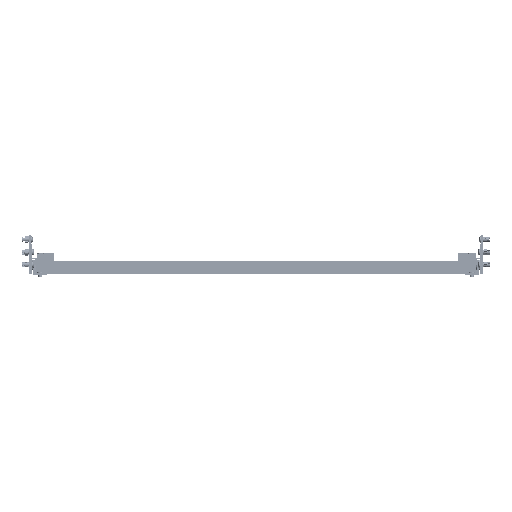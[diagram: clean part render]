
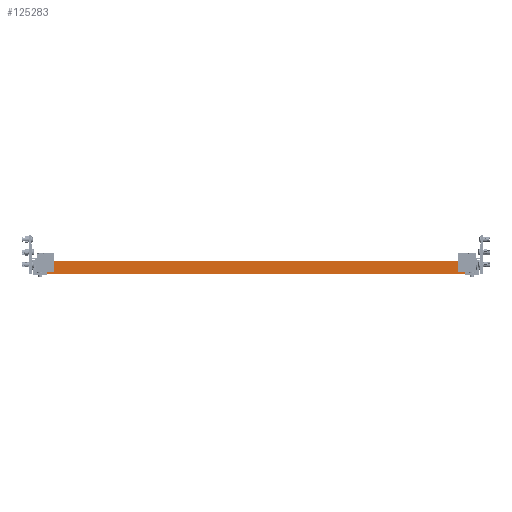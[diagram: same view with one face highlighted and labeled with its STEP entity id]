
A CAD part, front view. The second image highlights one B-rep face of the part: STEP entity #125283.
In plain terms, the highlighted planar face has unit normal (0, -1, 0) as drawn and (-1, 0, 0) by its records, which use the part's own axes.
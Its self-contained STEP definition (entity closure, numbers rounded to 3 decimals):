
#4048 = LINE ( 'NONE', #153170, #212896 ) ;
#41529 = CARTESIAN_POINT ( 'NONE',  ( -741.51, -414.5, 0. ) ) ;
#50234 = LINE ( 'NONE', #318231, #384051 ) ;
#51379 = VERTEX_POINT ( 'NONE', #352490 ) ;
#54284 = CARTESIAN_POINT ( 'NONE',  ( -741.51, 414.5, 2.5 ) ) ;
#57670 = PLANE ( 'NONE',  #167775 ) ;
#68066 = EDGE_CURVE ( 'NONE', #304192, #162787, #50234, .T. ) ;
#68954 = EDGE_CURVE ( 'NONE', #269261, #162561, #75546, .T. ) ;
#75546 = LINE ( 'NONE', #107734, #101657 ) ;
#80479 = DIRECTION ( 'NONE',  ( 0., 0., 1. ) ) ;
#89886 = DIRECTION ( 'NONE',  ( 1., 0., 0. ) ) ;
#91808 = ORIENTED_EDGE ( 'NONE', *, *, #238984, .T. ) ;
#96715 = DIRECTION ( 'NONE',  ( 0., 0., -1. ) ) ;
#101657 = VECTOR ( 'NONE', #321288, 1000. ) ;
#105419 = EDGE_CURVE ( 'NONE', #342653, #381048, #354285, .T. ) ;
#107734 = CARTESIAN_POINT ( 'NONE',  ( -741.51, 414.5, 25. ) ) ;
#118374 = LINE ( 'NONE', #126253, #316315 ) ;
#124582 = VECTOR ( 'NONE', #348310, 1000. ) ;
#125283 = ADVANCED_FACE ( 'NONE', ( #333592 ), #57670, .F. ) ;
#126253 = CARTESIAN_POINT ( 'NONE',  ( -741.51, 414.5, 2.5 ) ) ;
#130805 = CARTESIAN_POINT ( 'NONE',  ( -741.51, -440.5, 0. ) ) ;
#144236 = ORIENTED_EDGE ( 'NONE', *, *, #364266, .F. ) ;
#153034 = EDGE_CURVE ( 'NONE', #162787, #162561, #331283, .T. ) ;
#153170 = CARTESIAN_POINT ( 'NONE',  ( -741.51, 414.5, 3.1 ) ) ;
#162561 = VERTEX_POINT ( 'NONE', #254039 ) ;
#162787 = VERTEX_POINT ( 'NONE', #237759 ) ;
#166671 = CARTESIAN_POINT ( 'NONE',  ( -741.51, -414.5, 2.5 ) ) ;
#167568 = EDGE_CURVE ( 'NONE', #242794, #342653, #4048, .T. ) ;
#167775 = AXIS2_PLACEMENT_3D ( 'NONE', #365804, #89886, #212716 ) ;
#169034 = EDGE_CURVE ( 'NONE', #304192, #381048, #323787, .T. ) ;
#177094 = DIRECTION ( 'NONE',  ( 0., 0., -1. ) ) ;
#193312 = VECTOR ( 'NONE', #177094, 1000. ) ;
#193944 = ORIENTED_EDGE ( 'NONE', *, *, #68066, .T. ) ;
#203212 = ORIENTED_EDGE ( 'NONE', *, *, #105419, .T. ) ;
#212716 = DIRECTION ( 'NONE',  ( 0., 0., -1. ) ) ;
#212896 = VECTOR ( 'NONE', #96715, 1000. ) ;
#237063 = DIRECTION ( 'NONE',  ( 0., 0., -1. ) ) ;
#237759 = CARTESIAN_POINT ( 'NONE',  ( -741.51, -414.5, 21.9 ) ) ;
#238984 = EDGE_CURVE ( 'NONE', #51379, #242794, #360450, .T. ) ;
#242794 = VERTEX_POINT ( 'NONE', #371316 ) ;
#246480 = VECTOR ( 'NONE', #301060, 1000. ) ;
#252251 = VECTOR ( 'NONE', #237063, 1000. ) ;
#252792 = CARTESIAN_POINT ( 'NONE',  ( -741.51, 414.5, 25. ) ) ;
#254039 = CARTESIAN_POINT ( 'NONE',  ( -741.51, -414.5, 25. ) ) ;
#269261 = VERTEX_POINT ( 'NONE', #252792 ) ;
#271021 = CARTESIAN_POINT ( 'NONE',  ( -741.51, -414.5, 3.1 ) ) ;
#280424 = ORIENTED_EDGE ( 'NONE', *, *, #169034, .F. ) ;
#297097 = CARTESIAN_POINT ( 'NONE',  ( -741.51, -414.5, 21.9 ) ) ;
#301060 = DIRECTION ( 'NONE',  ( 0., 0., 1. ) ) ;
#304192 = VERTEX_POINT ( 'NONE', #271021 ) ;
#305235 = CARTESIAN_POINT ( 'NONE',  ( -741.51, 414.5, 0. ) ) ;
#316315 = VECTOR ( 'NONE', #341794, 1000. ) ;
#318231 = CARTESIAN_POINT ( 'NONE',  ( -741.51, -414.5, 2.5 ) ) ;
#321288 = DIRECTION ( 'NONE',  ( 0., -1., 0. ) ) ;
#323787 = LINE ( 'NONE', #166671, #252251 ) ;
#331283 = LINE ( 'NONE', #297097, #246480 ) ;
#333592 = FACE_OUTER_BOUND ( 'NONE', #346706, .T. ) ;
#341794 = DIRECTION ( 'NONE',  ( 0., 0., 1. ) ) ;
#341864 = ORIENTED_EDGE ( 'NONE', *, *, #167568, .T. ) ;
#342653 = VERTEX_POINT ( 'NONE', #305235 ) ;
#346706 = EDGE_LOOP ( 'NONE', ( #193944, #380634, #349700, #144236, #91808, #341864, #203212, #280424 ) ) ;
#348310 = DIRECTION ( 'NONE',  ( 0., -1., 0. ) ) ;
#349700 = ORIENTED_EDGE ( 'NONE', *, *, #68954, .F. ) ;
#352490 = CARTESIAN_POINT ( 'NONE',  ( -741.51, 414.5, 21.9 ) ) ;
#354285 = LINE ( 'NONE', #130805, #124582 ) ;
#360450 = LINE ( 'NONE', #54284, #193312 ) ;
#364266 = EDGE_CURVE ( 'NONE', #51379, #269261, #118374, .T. ) ;
#365804 = CARTESIAN_POINT ( 'NONE',  ( -741.51, 414.5, 2.5 ) ) ;
#371316 = CARTESIAN_POINT ( 'NONE',  ( -741.51, 414.5, 3.1 ) ) ;
#380634 = ORIENTED_EDGE ( 'NONE', *, *, #153034, .T. ) ;
#381048 = VERTEX_POINT ( 'NONE', #41529 ) ;
#384051 = VECTOR ( 'NONE', #80479, 1000. ) ;
